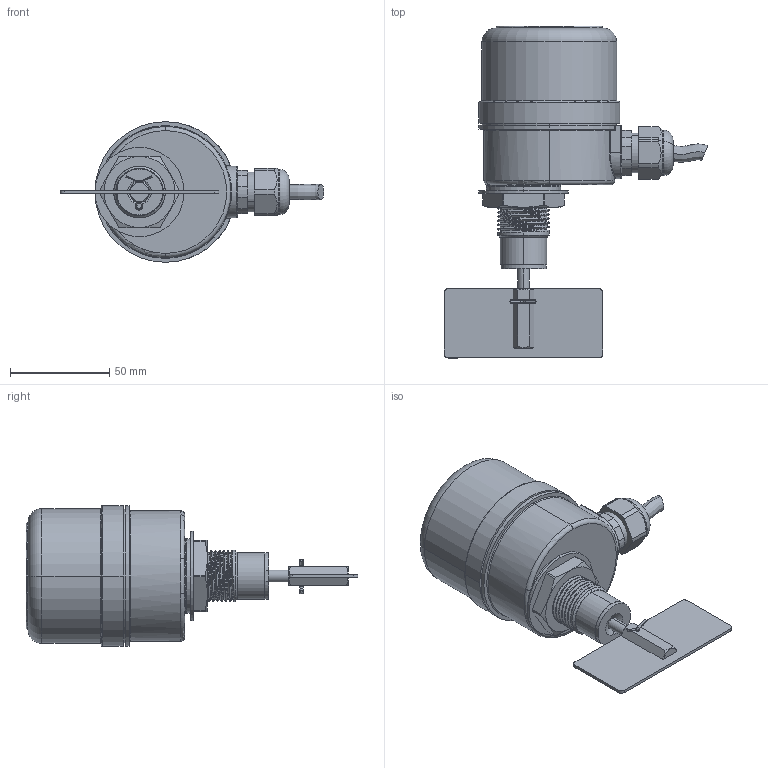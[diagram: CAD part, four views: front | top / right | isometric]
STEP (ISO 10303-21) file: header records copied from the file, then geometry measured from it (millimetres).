
FILE_DESCRIPTION (( 'STEP AP214' ), '1' );
FILE_NAME ('IL-MEA 220VAC ïðÿìîóãîëüíàÿ ëîïàñòü - ð.STEP', '2020-12-23T16:42:06', ( '' ), ( '' ), 'SwSTEP 2.0', 'SolidWorks 2020', '' );
FILE_SCHEMA (( 'AUTOMOTIVE_DESIGN' ));
Length unit declared in the file: millimetre
Products named in the file (8): Êîðïóñ-ð; 幄鼭歑; Øïèëüêà 2ìì; Êðûøêà; 扻錝僝鍧; IL-MEA 220VAC ïðÿìîóãîëüíàÿ ëîïàñòü - ð; Ëîïàñòü ïðÿìîóãîëüíàÿ; 崼鶇
Assembly tree (7 placements, depth 2):
  IL-MEA 220VAC ïðÿìîóãîëüíàÿ ëîïàñòü - ð
    Êîðïóñ-ð
    Êðûøêà
    Ëîïàñòü ïðÿìîóãîëüíàÿ
    幄鼭歑
    扻錝僝鍧
    崼鶇
    Øïèëüêà 2ìì
Bounding box: 132.97 x 167.5 x 71 mm (x, y, z)
Volume: 362750.6 mm3; surface area: 51674.2 mm2
Topology: 7 solids, 7 shells, 265 faces, 619 edges, 378 vertices
Faces by surface type: cylinder 114, plane 73, torus 47, cone 18, bspline 11, sphere 2
Entity records: 12215 total; most frequent: CARTESIAN_POINT 5864, DIRECTION 1339, ORIENTED_EDGE 1234, EDGE_CURVE 617, AXIS2_PLACEMENT_3D 556, VERTEX_POINT 378, CIRCLE 292, EDGE_LOOP 283
